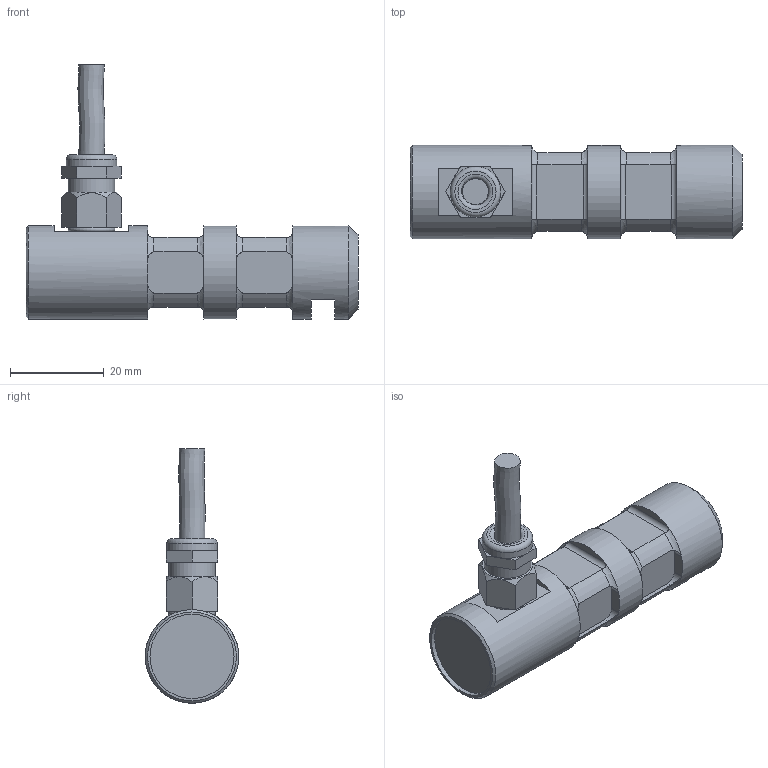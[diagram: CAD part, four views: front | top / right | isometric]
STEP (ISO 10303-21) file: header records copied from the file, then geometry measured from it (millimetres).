
FILE_DESCRIPTION(/* description */ ('Alibre Inc.'),/* implementation_level */ '2;1');
FILE_NAME(/* name */ 'export0',/* time_stamp */ '2015-04-15T15:03:13+02:00',/* author */ (''),/* organization */ (''),/* preprocessor_version */ 'ST-DEVELOPER v14',/* originating_system */ 'Alibre',/* authorisation */ '');
FILE_SCHEMA (('CONFIG_CONTROL_DESIGN'));
Length unit declared in the file: centimetre
Products named in the file (6): ID_1; ID_2; ID_3
Bounding box: 71 x 20 x 54.39 mm (x, y, z)
Volume: 20841.6 mm3; surface area: 7259.7 mm2
Topology: 4 solids, 4 shells, 130 faces, 307 edges, 191 vertices
Faces by surface type: plane 63, cylinder 42, torus 19, cone 5, bspline 1
Full cylindrical faces by diameter (mm): 5.5 x1, 6 x1, 6.917 x1, 8 x1, 10 x1, 10.8 x1, 18 x1, 20 x3
Entity records: 6627 total; most frequent: CARTESIAN_POINT 3518, ORIENTED_EDGE 564, DIRECTION 398, EDGE_CURVE 282, VERTEX_POINT 186, AXIS2_PLACEMENT_3D 172, FACE_BOUND 158, EDGE_LOOP 157
